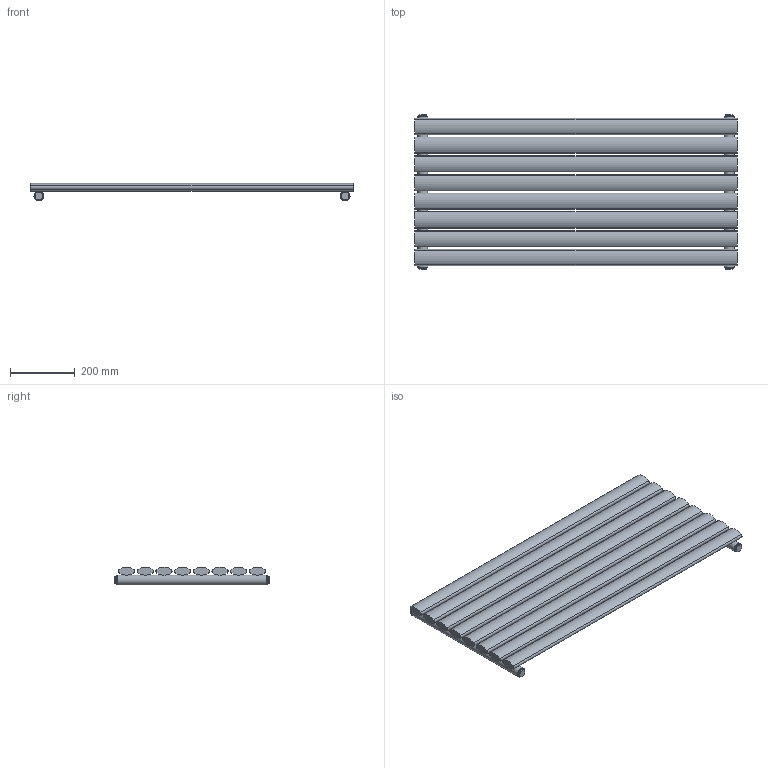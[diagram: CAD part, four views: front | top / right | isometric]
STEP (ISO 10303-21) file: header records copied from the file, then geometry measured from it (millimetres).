
FILE_DESCRIPTION(/* description */ (''),/* implementation_level */ '2;1');
FILE_NAME(/* name */ 'C:\Grzejniki\13DLUXRAD\pokojowe\FORTUNA\FORTUNA POJEDYNCZA 1000x468.iam.stp',/* time_stamp */ '2016-06-28T17:32:08+02:00',/* author */ ('m.szydziak'),/* organization */ (''),/* preprocessor_version */ 'ST-DEVELOPER v16.5',/* originating_system */ 'Autodesk Inventor 2017',/* authorisation */ '');
FILE_SCHEMA (('AUTOMOTIVE_DESIGN { 1 0 10303 214 3 1 1 }'));
Length unit declared in the file: millimetre
Products named in the file (5): FORTUNA POJEDYNCZA 1000x468; %%c30x1,5x468; 50x25x1,2x1000; zaślepka fi30 G0,5inch; korek
Assembly tree (18 placements, depth 2):
  FORTUNA POJEDYNCZA 1000x468
    %%c30x1,5x468  x2
    50x25x1,2x1000  x8
    zaślepka fi30 G0,5inch  x4
    korek  x4
Bounding box: 1000 x 480 x 54.86 mm (x, y, z)
Volume: 7815015.5 mm3; surface area: 1156089.7 mm2
Topology: 18 solids, 18 shells, 132 faces, 292 edges, 196 vertices
Faces by surface type: plane 84, cylinder 48
Full cylindrical faces by diameter (mm): 18.631 x4, 24 x4, 27 x6, 30 x2
Entity records: 1029 total; most frequent: DIRECTION 190, CARTESIAN_POINT 150, ORIENTED_EDGE 114, AXIS2_PLACEMENT_3D 81, EDGE_CURVE 57, VERTEX_POINT 41, EDGE_LOOP 38, FACE_OUTER_BOUND 29
